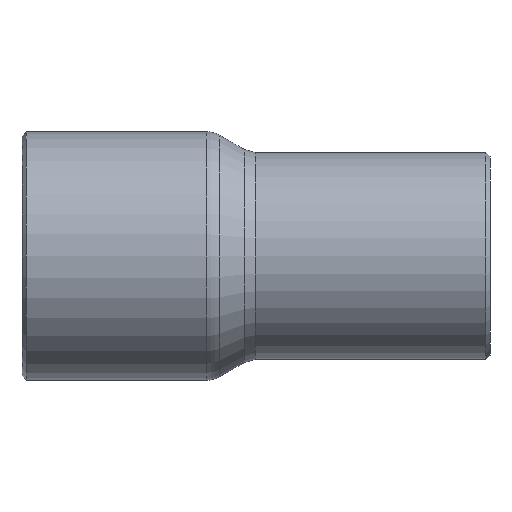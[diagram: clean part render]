
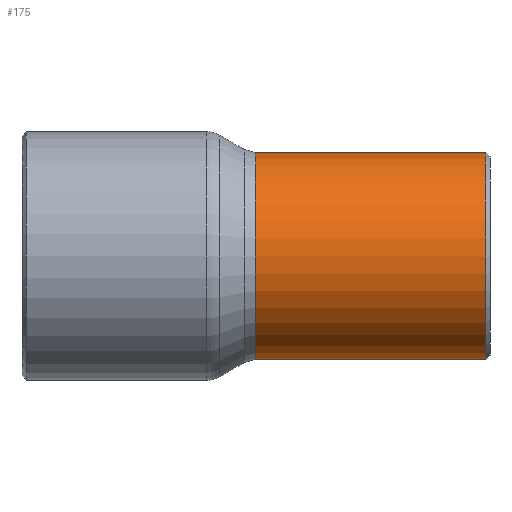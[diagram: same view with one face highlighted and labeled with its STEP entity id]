
A CAD part, front view. The second image highlights one B-rep face of the part: STEP entity #175.
In plain terms, the highlighted cylindrical face has radius 4.763 mm (diameter 9.525 mm), a full revolution.
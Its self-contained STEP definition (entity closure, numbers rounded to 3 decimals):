
#141=CARTESIAN_POINT('',(10.6,4.763,0.));
#142=VERTEX_POINT('',#141);
#143=CARTESIAN_POINT('',(10.6,0.0,0.0));
#144=DIRECTION('',(1.0,0.0,0.0));
#145=DIRECTION('',(0.0,-1.0,0.0));
#146=AXIS2_PLACEMENT_3D('',#143,#144,#145);
#147=CIRCLE('',#146,4.763);
#148=EDGE_CURVE('',#142,#142,#147,.T.);
#156=CARTESIAN_POINT('',(5.4,0.0,0.0));
#157=DIRECTION('',(1.0,0.0,0.0));
#158=DIRECTION('',(0.0,1.0,0.0));
#159=AXIS2_PLACEMENT_3D('',#156,#157,#158);
#160=CYLINDRICAL_SURFACE('',#159,4.763);
#161=CARTESIAN_POINT('',(0.,4.763,0.0));
#162=VERTEX_POINT('',#161);
#163=CARTESIAN_POINT('',(0.0,0.0,0.0));
#164=DIRECTION('',(1.0,0.0,0.0));
#165=DIRECTION('',(0.0,1.0,0.0));
#166=AXIS2_PLACEMENT_3D('',#163,#164,#165);
#167=CIRCLE('',#166,4.763);
#168=EDGE_CURVE('',#162,#162,#167,.T.);
#169=ORIENTED_EDGE('',*,*,#168,.T.);
#170=EDGE_LOOP('',(#169));
#171=FACE_OUTER_BOUND('',#170,.T.);
#172=ORIENTED_EDGE('',*,*,#148,.F.);
#173=EDGE_LOOP('',(#172));
#174=FACE_BOUND('',#173,.T.);
#175=ADVANCED_FACE('',(#171,#174),#160,.T.);
